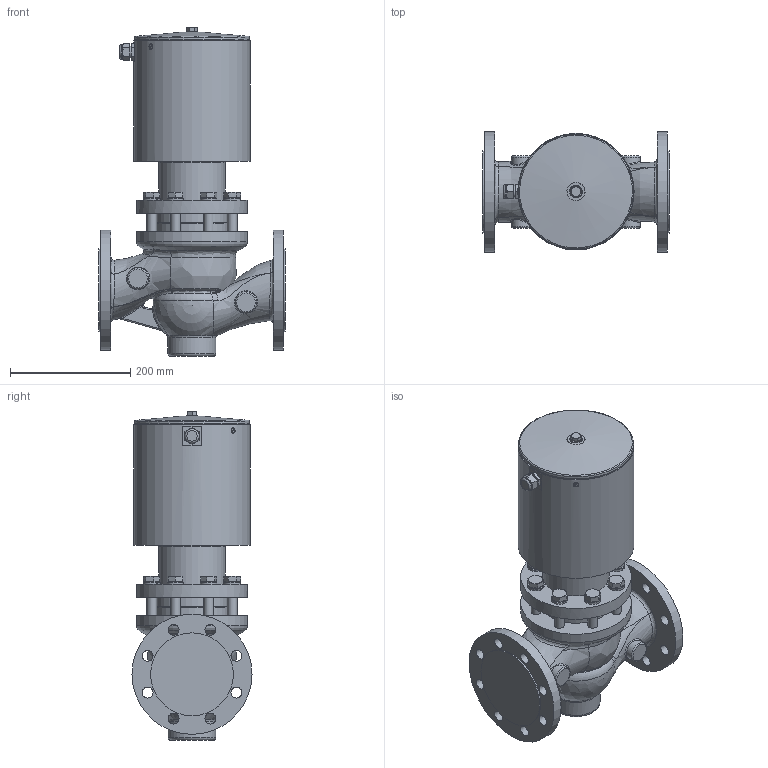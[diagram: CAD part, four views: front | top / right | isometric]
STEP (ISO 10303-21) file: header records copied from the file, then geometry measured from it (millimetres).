
FILE_DESCRIPTION((''),'2;1');
FILE_NAME('G:\CAD-Download\EVSA\10-EVSA\DN 80\10-FVSA 30NH-4.Av.02.32.stp','2009-11-12T10:21:13',('hb'),(''),'Autodesk Inventor 2008','Autodesk Inventor 2008','');
FILE_SCHEMA(('AUTOMOTIVE_DESIGN { 1 0 10303 214 1 1 1 1 }'));
Length unit declared in the file: millimetre
Products named in the file (1): 10-FVSA 30NH-4.Av.02
Bounding box: 310 x 200 x 547.45 mm (x, y, z)
Volume: 13003135.5 mm3; surface area: 584115.3 mm2
Topology: 1 solids, 1 shells, 401 faces, 984 edges, 614 vertices
Faces by surface type: plane 155, bspline 105, cylinder 66, cone 62, torus 12, sphere 1
Full cylindrical faces by diameter (mm): 14.63 x1, 16 x16, 20 x1, 22.49 x8, 23.713 x1, 35 x4, 80 x1, 93 x1, 110.5 x1, 120 x1, 121 x1, 138 x2, 185 x2, 189 x1, 193.7 x1, 200 x2
Entity records: 24437 total; most frequent: CARTESIAN_POINT 16001, ORIENTED_EDGE 1686, DIRECTION 1504, EDGE_CURVE 843, AXIS2_PLACEMENT_3D 645, EDGE_LOOP 584, VERTEX_POINT 561, FACE_OUTER_BOUND 401
